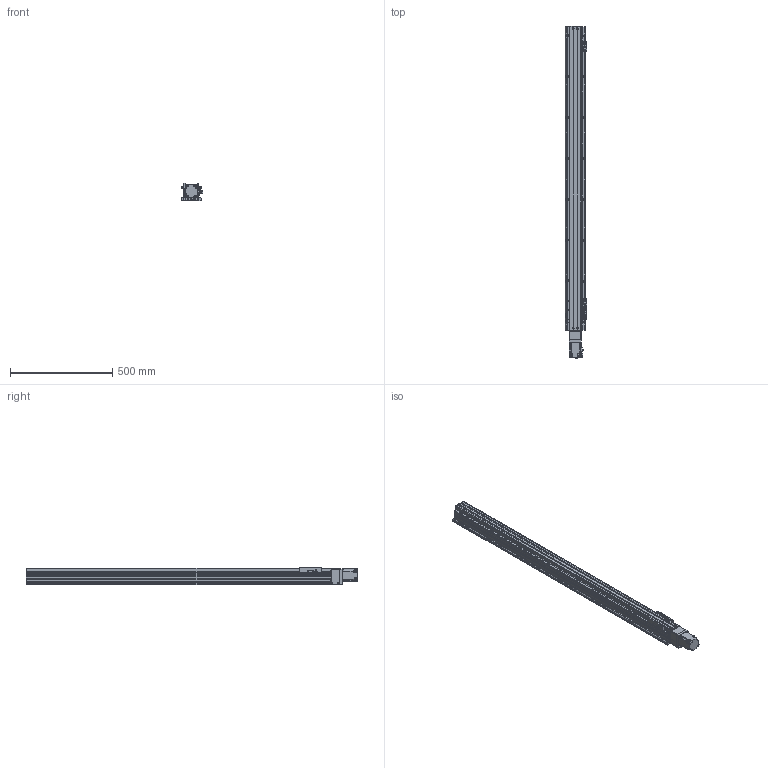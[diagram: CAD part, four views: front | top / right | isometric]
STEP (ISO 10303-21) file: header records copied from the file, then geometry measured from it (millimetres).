
FILE_DESCRIPTION(/* description */ ('MANUFACTURE'),/* implementation_level */ '2;1');
FILE_NAME(/* name */ '\\192.168.0.160\disk1\HAN SHIN Master\B-설계부문\C-표준\B-2024년\BC02-표준도면\+로봇 개선표준도면\표준 승인도 폴더 - 재작업\3D\HS Type\HS75\S-Type\HS75-S20-N1B-1300-R10.stp',/* time_stamp */ '2024-05-08T15:11:02+09:00',/* author */ ('User'),/* organization */ (''),/* preprocessor_version */ 'ST-DEVELOPER v18.1',/* originating_system */ 'Autodesk Inventor 2022',/* authorisation */ 'LIP');
FILE_SCHEMA (('AUTOMOTIVE_DESIGN { 1 0 10303 214 3 1 1 }'));
Products named in the file (28): HS75-S20-N1B-0500-R10 - 간소화; HS75 100W S BASE; UPCOVER; HS75 REAR BLOCK; SDWA-31C-10x14(00-00); HS75 FRONT BLOCK-AN; HS75 FRONT BLOCK; 7001ADF; BEARING COVER(∅15); SPACER(∅15); RN12; HS75 FRONT COVER; HS75 FRONT COVER_1; COUPLING COVER; HS75 SIDE COVER; HS75 SENSOR DOG-1; NIPPLE CAP(신규); hsr_ftht_A-M6F_grease_nipple_joint; SENSOR BRK(EE-SX674A); EE_SX674A; M3-5(렌치볼트); HG75 S MOTOR PLATE-B; HG75 S MOTOR PLATE-M; hg-kr23_; HG90STOPPER - 17L; LMKE1520 NUT; HS75 TABLE - 1BLOCK; HS75 SIDE COVER (100W, 1B)_MIR
Assembly tree (37 placements, depth 3):
  HS75-S20-N1B-0500-R10 - 간소화
    HS75 100W S BASE
    UPCOVER
    HS75 REAR BLOCK
    SDWA-31C-10x14(00-00)
    HS75 FRONT BLOCK-AN
      HS75 FRONT BLOCK
      7001ADF
      BEARING COVER(∅15)
      SPACER(∅15)
      RN12
    HS75 FRONT COVER
    HS75 FRONT COVER_1
    HG90STOPPER - 17L  x2
    COUPLING COVER
    SENSOR BRK(EE-SX674A)  x3
    EE_SX674A  x3
    hsr_ftht_A-M6F_grease_nipple_joint  x2
    NIPPLE CAP(신규)  x2
    HS75 SIDE COVER
    HS75 SENSOR DOG-1
    M3-5(렌치볼트)  x4
    HG75 S MOTOR PLATE-B
    HG75 S MOTOR PLATE-M
    hg-kr23_
    LMKE1520 NUT
    HS75 TABLE - 1BLOCK
    HS75 SIDE COVER (100W, 1B)_MIR
Bounding box: 105.96 x 1625.6 x 85 mm (x, y, z)
Volume: 3814618.7 mm3; surface area: 1322356.9 mm2
Topology: 59 solids, 59 shells, 2221 faces, 6220 edges, 4058 vertices
Faces by surface type: plane 1100, cylinder 783, cone 218, torus 74, sphere 38, bspline 8
Full cylindrical faces by diameter (mm): 2.013 x2, 2.459 x20, 2.85 x4, 3 x12, 3.1 x1, 3.242 x56, 3.3 x2, 3.5 x6, 4 x18, 4.134 x46, 4.5 x49, 4.917 x17, 5 x28, 5.5 x16, 5.6 x10, 5.8 x4, 5.9 x10, 6 x6, 6.05 x4, 6.45 x6, 6.5 x4, 7.2 x2, 7.5 x4, 8 x7, 9.5 x10, 10 x1, 10.8 x1, 12 x3, 14 x2, 14.4 x3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
Entity records: 66868 total; most frequent: CARTESIAN_POINT 14188, DIRECTION 11002, ORIENTED_EDGE 10632, EDGE_CURVE 5316, AXIS2_PLACEMENT_3D 4068, VERTEX_POINT 3624, LINE 2866, VECTOR 2866
